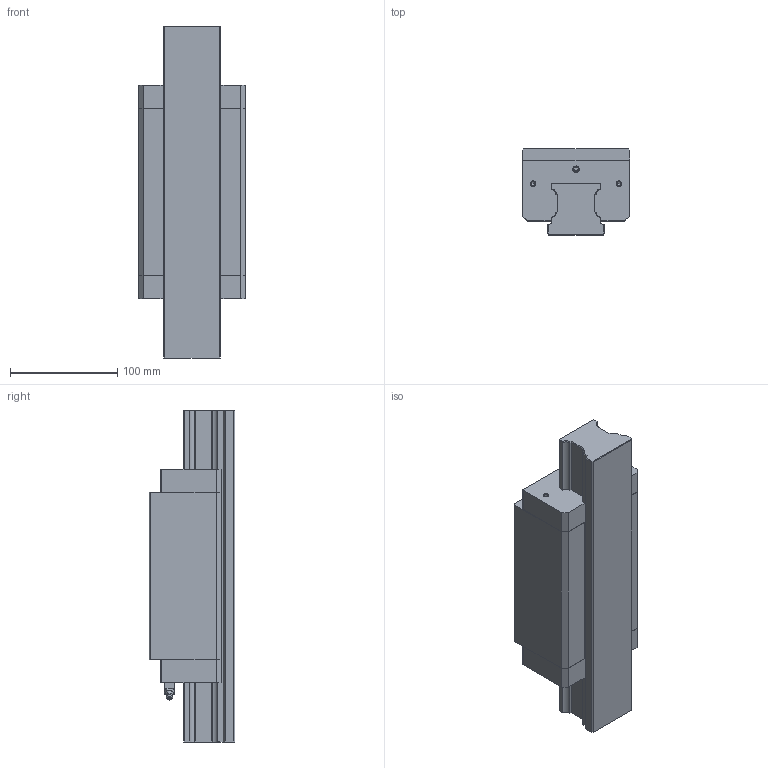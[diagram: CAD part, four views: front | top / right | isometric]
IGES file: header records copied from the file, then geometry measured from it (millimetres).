
Start section: 3D InterOp IGES (v. 2019 1.0.2), Spatial Corp. Copyright (c) 1999-2017.
Global section: file name: R1624_size55.igs; native system: Spatial Corp.; preprocessor: 3D InterOp GENERIC/IGES 3.0; author: Noname; organization: Noname; date: 20220629.124927; units: millimetre
Bounding box: 100 x 80 x 309 mm (x, y, z)
Surface area: 203655 mm2 (no closed solid volume)
Topology: 0 solids, 0 shells, 275 faces, 1528 edges, 1504 vertices
Faces by surface type: extrusion 154, revolution 119, bspline 2
